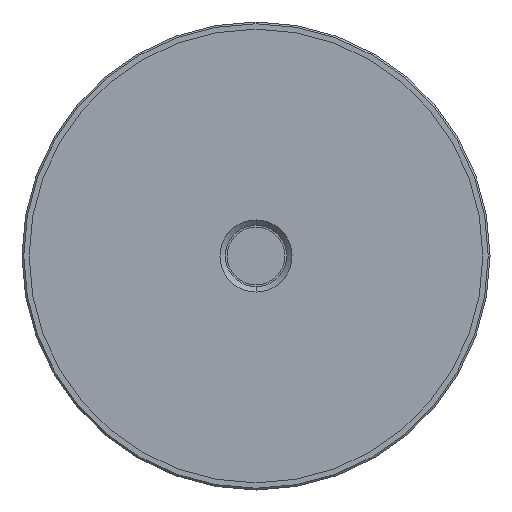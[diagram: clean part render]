
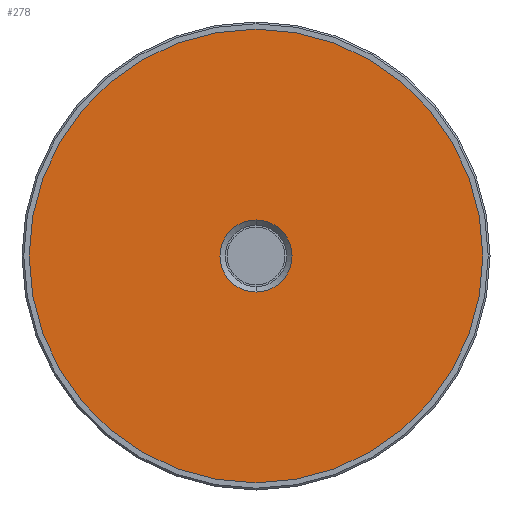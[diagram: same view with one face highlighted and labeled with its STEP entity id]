
A CAD part, front view. The second image highlights one B-rep face of the part: STEP entity #278.
In plain terms, the highlighted planar face has unit normal (0, -1, 0).
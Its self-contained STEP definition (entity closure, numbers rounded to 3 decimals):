
#26 = CARTESIAN_POINT ( 'NONE',  ( 0., -1.5, 0. ) ) ;
#31 = CARTESIAN_POINT ( 'NONE',  ( 0., -1.5, 0. ) ) ;
#71 = EDGE_CURVE ( 'NONE', #83, #955, #434, .T. ) ;
#72 = DIRECTION ( 'NONE',  ( 0., -1., 0. ) ) ;
#74 = ORIENTED_EDGE ( 'NONE', *, *, #729, .F. ) ;
#83 = VERTEX_POINT ( 'NONE', #359 ) ;
#124 = CARTESIAN_POINT ( 'NONE',  ( 0., -1.5, 0. ) ) ;
#126 = DIRECTION ( 'NONE',  ( 0., 1., 0. ) ) ;
#129 = AXIS2_PLACEMENT_3D ( 'NONE', #31, #126, #737 ) ;
#133 = CIRCLE ( 'NONE', #333, 10. ) ;
#158 = CARTESIAN_POINT ( 'NONE',  ( 0., -1.5, 0. ) ) ;
#218 = FACE_BOUND ( 'NONE', #383, .T. ) ;
#229 = CARTESIAN_POINT ( 'NONE',  ( 0., -1.5, -63. ) ) ;
#234 = DIRECTION ( 'NONE',  ( 0., 1., 0. ) ) ;
#235 = DIRECTION ( 'NONE',  ( 0., 1., 0. ) ) ;
#278 = ADVANCED_FACE ( 'NONE', ( #218, #497 ), #677, .T. ) ;
#333 = AXIS2_PLACEMENT_3D ( 'NONE', #26, #234, #724 ) ;
#350 = ORIENTED_EDGE ( 'NONE', *, *, #796, .T. ) ;
#359 = CARTESIAN_POINT ( 'NONE',  ( 0., -1.5, 63. ) ) ;
#383 = EDGE_LOOP ( 'NONE', ( #1051, #350 ) ) ;
#434 = CIRCLE ( 'NONE', #584, 63. ) ;
#482 = ORIENTED_EDGE ( 'NONE', *, *, #71, .F. ) ;
#497 = FACE_OUTER_BOUND ( 'NONE', #825, .T. ) ;
#527 = CIRCLE ( 'NONE', #1147, 63. ) ;
#584 = AXIS2_PLACEMENT_3D ( 'NONE', #158, #946, #971 ) ;
#629 = VERTEX_POINT ( 'NONE', #898 ) ;
#677 = PLANE ( 'NONE',  #1175 ) ;
#682 = CARTESIAN_POINT ( 'NONE',  ( 0., -1.5, 63. ) ) ;
#703 = EDGE_CURVE ( 'NONE', #629, #921, #1266, .T. ) ;
#724 = DIRECTION ( 'NONE',  ( 0., 0., -1. ) ) ;
#729 = EDGE_CURVE ( 'NONE', #955, #83, #527, .T. ) ;
#737 = DIRECTION ( 'NONE',  ( 0., 0., -1. ) ) ;
#796 = EDGE_CURVE ( 'NONE', #921, #629, #133, .T. ) ;
#825 = EDGE_LOOP ( 'NONE', ( #482, #74 ) ) ;
#898 = CARTESIAN_POINT ( 'NONE',  ( 0., -1.5, -10. ) ) ;
#917 = CARTESIAN_POINT ( 'NONE',  ( 0., -1.5, 10. ) ) ;
#918 = DIRECTION ( 'NONE',  ( 0., 0., 1. ) ) ;
#921 = VERTEX_POINT ( 'NONE', #917 ) ;
#946 = DIRECTION ( 'NONE',  ( 0., 1., 0. ) ) ;
#955 = VERTEX_POINT ( 'NONE', #229 ) ;
#971 = DIRECTION ( 'NONE',  ( 0., 0., 1. ) ) ;
#1051 = ORIENTED_EDGE ( 'NONE', *, *, #703, .T. ) ;
#1147 = AXIS2_PLACEMENT_3D ( 'NONE', #124, #235, #918 ) ;
#1151 = DIRECTION ( 'NONE',  ( 0., 0., -1. ) ) ;
#1175 = AXIS2_PLACEMENT_3D ( 'NONE', #682, #72, #1151 ) ;
#1266 = CIRCLE ( 'NONE', #129, 10. ) ;
